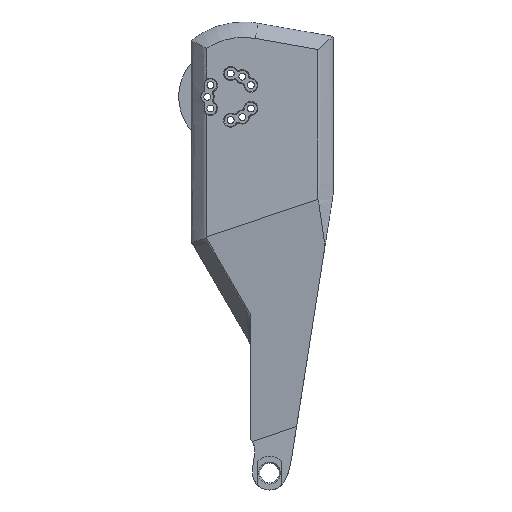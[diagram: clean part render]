
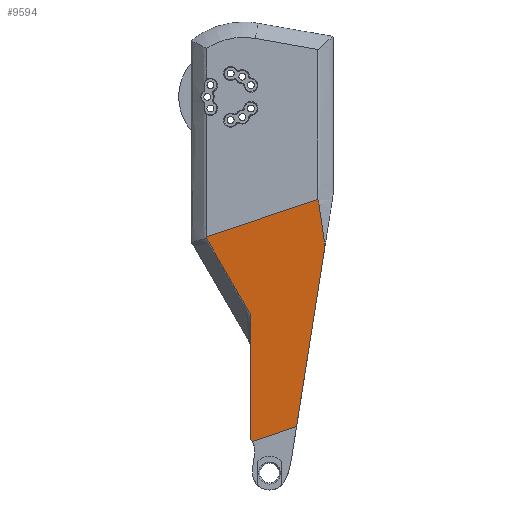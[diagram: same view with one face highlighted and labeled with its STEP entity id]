
A CAD part, left-side view. The second image highlights one B-rep face of the part: STEP entity #9594.
In plain terms, the highlighted planar face has unit normal (-0.993, -0.039, -0.116).
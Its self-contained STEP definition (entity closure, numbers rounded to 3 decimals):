
#476=CARTESIAN_POINT('',(74.067,35.793,-556.666));
#1974=CARTESIAN_POINT('',(78.413,-55.705,
-563.026));
#1975=CARTESIAN_POINT('',(78.292,-55.58,
-562.032));
#1976=CARTESIAN_POINT('',(78.06,-55.336,
-560.116));
#1977=CARTESIAN_POINT('',(77.738,-54.996,
-557.469));
#1978=CARTESIAN_POINT('',(77.441,-54.677,
-555.024));
#1979=CARTESIAN_POINT('',(77.166,-54.379,
-552.769));
#1980=CARTESIAN_POINT('',(76.913,-54.1,
-550.688));
#1981=CARTESIAN_POINT('',(76.679,-53.839,
-548.768));
#1982=CARTESIAN_POINT('',(76.463,-53.596,
-546.998));
#1983=CARTESIAN_POINT('',(76.264,-53.368,
-545.365));
#1984=CARTESIAN_POINT('',(76.08,-53.155,
-543.859));
#1985=CARTESIAN_POINT('',(75.911,-52.956,
-542.471));
#1986=CARTESIAN_POINT('',(75.754,-52.769,
-541.19));
#1987=CARTESIAN_POINT('',(75.61,-52.595,
-540.01));
#1988=CARTESIAN_POINT('',(75.477,-52.433,
-538.921));
#1989=CARTESIAN_POINT('',(75.354,-52.281,
-537.917));
#1990=CARTESIAN_POINT('',(75.241,-52.139,
-536.991));
#1991=CARTESIAN_POINT('',(75.136,-52.006,
-536.138));
#1992=CARTESIAN_POINT('',(75.039,-51.881,
-535.352));
#1993=CARTESIAN_POINT('',(74.951,-51.765,
-534.628));
#1994=CARTESIAN_POINT('',(74.869,-51.656,
-533.961));
#1995=CARTESIAN_POINT('',(74.793,-51.554,
-533.347));
#1996=CARTESIAN_POINT('',(74.723,-51.458,
-532.782));
#1997=CARTESIAN_POINT('',(74.659,-51.369,
-532.261));
#1998=CARTESIAN_POINT('',(74.6,-51.285,
-531.783));
#1999=CARTESIAN_POINT('',(74.546,-51.206,
-531.342));
#2000=CARTESIAN_POINT('',(74.496,-51.133,
-530.937));
#2001=CARTESIAN_POINT('',(74.45,-51.064,
-530.565));
#2002=CARTESIAN_POINT('',(74.407,-50.999,
-530.223));
#2003=CARTESIAN_POINT('',(74.368,-50.938,
-529.909));
#2004=CARTESIAN_POINT('',(74.333,-50.881,
-529.62));
#2005=CARTESIAN_POINT('',(74.3,-50.827,
-529.355));
#2006=CARTESIAN_POINT('',(74.269,-50.776,
-529.112));
#2007=CARTESIAN_POINT('',(74.241,-50.729,
-528.889));
#2008=CARTESIAN_POINT('',(74.216,-50.684,
-528.684));
#2009=CARTESIAN_POINT('',(74.192,-50.642,
-528.497));
#2010=CARTESIAN_POINT('',(74.171,-50.602,
-528.325));
#2011=CARTESIAN_POINT('',(74.151,-50.564,
-528.168));
#2012=CARTESIAN_POINT('',(74.133,-50.528,
-528.025));
#2013=CARTESIAN_POINT('',(74.116,-50.494,
-527.894));
#2014=CARTESIAN_POINT('',(74.101,-50.462,
-527.774));
#2015=CARTESIAN_POINT('',(74.087,-50.432,
-527.665));
#2016=CARTESIAN_POINT('',(74.074,-50.402,
-527.566));
#2017=CARTESIAN_POINT('',(74.063,-50.374,
-527.476));
#2018=CARTESIAN_POINT('',(74.052,-50.347,
-527.395));
#2019=CARTESIAN_POINT('',(74.043,-50.321,
-527.321));
#2020=CARTESIAN_POINT('',(74.034,-50.296,
-527.254));
#2021=CARTESIAN_POINT('',(74.026,-50.271,
-527.195));
#2022=CARTESIAN_POINT('',(74.019,-50.246,
-527.142));
#2023=CARTESIAN_POINT('',(74.012,-50.22,
-527.095));
#2024=CARTESIAN_POINT('',(74.007,-50.192,
-527.056));
#2025=CARTESIAN_POINT('',(74.002,-50.162,
-527.025));
#2026=CARTESIAN_POINT('',(74.,-50.134,
-527.017));
#2027=CARTESIAN_POINT('',(74.,-50.121,-527.022));
#2045=CARTESIAN_POINT('',(78.413,-55.705,
-563.026));
#2467=DIRECTION('',(0.116,0.,-0.993));
#2468=VECTOR('',#2467,95.408);
#2469=CARTESIAN_POINT('',(82.326,1.544,-615.99));
#2470=LINE('',#2469,#2468);
#2483=DIRECTION('',(-0.12,0.496,0.86));
#2484=VECTOR('',#2483,68.997);
#2485=CARTESIAN_POINT('',(82.326,1.544,-615.99));
#2486=LINE('',#2485,#2484);
#2487=DIRECTION('',(0.,-0.947,0.321));
#2488=VECTOR('',#2487,90.421);
#2489=CARTESIAN_POINT('',(74.,35.53,-556.002));
#2490=LINE('',#2489,#2488);
#2491=DIRECTION('',(0.108,0.154,-0.982));
#2492=VECTOR('',#2491,141.638);
#2493=CARTESIAN_POINT('',(78.413,-55.705,
-563.026));
#2494=LINE('',#2493,#2492);
#2495=CARTESIAN_POINT('',(93.75,0.385,-713.697));
#2496=CARTESIAN_POINT('',(93.721,0.516,
-713.489));
#2497=CARTESIAN_POINT('',(93.691,0.654,
-713.285));
#2498=CARTESIAN_POINT('',(93.662,0.797,
-713.085));
#2536=CARTESIAN_POINT('',(74.,35.53,-556.002));
#2537=CARTESIAN_POINT('',(74.,35.557,-556.011));
#2538=CARTESIAN_POINT('',(74.003,35.596,-556.051));
#2539=CARTESIAN_POINT('',(74.012,35.627,-556.139));
#2540=CARTESIAN_POINT('',(74.021,35.658,-556.222));
#2541=CARTESIAN_POINT('',(74.029,35.69,-556.308));
#2542=CARTESIAN_POINT('',(74.04,35.724,-556.41));
#2543=CARTESIAN_POINT('',(74.052,35.757,-556.527));
#2544=CARTESIAN_POINT('',(74.062,35.781,-556.618));
#2545=CARTESIAN_POINT('',(74.067,35.793,-556.666));
#4020=DIRECTION('',(0.,-0.947,0.321));
#4021=VECTOR('',#4020,36.118);
#4022=CARTESIAN_POINT('',(93.75,0.385,-713.697));
#4023=LINE('',#4022,#4021);
#4224=CARTESIAN_POINT('',(93.362,1.544,-710.758));
#4225=CARTESIAN_POINT('',(93.462,1.544,-711.614));
#4226=CARTESIAN_POINT('',(93.562,1.295,-712.389));
#4227=CARTESIAN_POINT('',(93.662,0.797,
-713.085));
#6256=VERTEX_POINT('',#476);
#6257=CARTESIAN_POINT('',(82.326,1.544,-615.99));
#6258=VERTEX_POINT('',#6257);
#6657=VERTEX_POINT('',#2045);
#6658=VERTEX_POINT('',#2027);
#6665=CARTESIAN_POINT('',(93.75,-33.828,-702.121));
#6666=VERTEX_POINT('',#6665);
#6777=CARTESIAN_POINT('',(93.75,0.385,-713.697));
#6778=VERTEX_POINT('',#6777);
#6792=VERTEX_POINT('',#2498);
#6793=CARTESIAN_POINT('',(93.362,1.544,-710.758));
#6794=VERTEX_POINT('',#6793);
#6795=VERTEX_POINT('',#2536);
#9573=CARTESIAN_POINT('',(82.167,-6.197,
-612.008));
#9574=DIRECTION('',(-0.993,-0.039,-0.116));
#9575=DIRECTION('',(0.039,-0.999,0.005));
#9576=AXIS2_PLACEMENT_3D('',#9573,#9574,#9575);
#9577=PLANE('',#9576);
#9578=ORIENTED_EDGE('',*,*,#9552,.F.);
#9579=ORIENTED_EDGE('',*,*,#7952,.T.);
#9581=ORIENTED_EDGE('',*,*,#9580,.F.);
#9583=ORIENTED_EDGE('',*,*,#9582,.T.);
#9584=ORIENTED_EDGE('',*,*,#9094,.F.);
#9585=ORIENTED_EDGE('',*,*,#9146,.T.);
#9587=ORIENTED_EDGE('',*,*,#9586,.F.);
#9589=ORIENTED_EDGE('',*,*,#9588,.T.);
#9591=ORIENTED_EDGE('',*,*,#9590,.F.);
#9592=EDGE_LOOP('',(#9578,#9579,#9581,#9583,#9584,#9585,#9587,#9589,#9591));
#9593=FACE_OUTER_BOUND('',#9592,.F.);
#9594=ADVANCED_FACE('',(#9593),#9577,.T.);
#2028=B_SPLINE_CURVE_WITH_KNOTS('',3,(#1974,#1975,#1976,#1977,#1978,#1979,#1980,
#1981,#1982,#1983,#1984,#1985,#1986,#1987,#1988,#1989,#1990,#1991,#1992,#1993,
#1994,#1995,#1996,#1997,#1998,#1999,#2000,#2001,#2002,#2003,#2004,#2005,#2006,
#2007,#2008,#2009,#2010,#2011,#2012,#2013,#2014,#2015,#2016,#2017,#2018,#2019,
#2020,#2021,#2022,#2023,#2024,#2025,#2026,#2027),.UNSPECIFIED.,.F.,.F.,(4,1,1,1,
1,1,1,1,1,1,1,1,1,1,1,1,1,1,1,1,1,1,1,1,1,1,1,1,1,1,1,1,1,1,1,1,1,1,1,1,1,1,1,1,
1,1,1,1,1,1,1,4),(0.,0.02,0.039,0.059,
0.078,0.098,0.118,0.137,
0.157,0.176,0.196,0.216,
0.235,0.255,0.275,0.294,
0.314,0.333,0.353,0.373,
0.392,0.412,0.431,0.451,
0.471,0.49,0.51,0.529,
0.549,0.569,0.588,0.608,
0.627,0.647,0.667,0.686,
0.706,0.725,0.745,0.765,
0.784,0.804,0.824,0.843,
0.863,0.882,0.902,0.922,
0.941,0.961,0.98,1.),.UNSPECIFIED.);
#2499=B_SPLINE_CURVE_WITH_KNOTS('',3,(#2495,#2496,#2497,#2498),.UNSPECIFIED.,
.F.,.F.,(4,4),(0.,1.),.UNSPECIFIED.);
#2546=B_SPLINE_CURVE_WITH_KNOTS('',3,(#2536,#2537,#2538,#2539,#2540,#2541,#2542,
#2543,#2544,#2545),.UNSPECIFIED.,.F.,.F.,(4,1,1,1,1,1,1,4),(0.,
0.143,0.286,0.429,0.571,
0.714,0.857,1.),.UNSPECIFIED.);
#4228=B_SPLINE_CURVE_WITH_KNOTS('',3,(#4224,#4225,#4226,#4227),.UNSPECIFIED.,
.F.,.F.,(4,4),(0.,1.),.UNSPECIFIED.);
#7952=EDGE_CURVE('',#6258,#6256,#2486,.T.);
#9094=EDGE_CURVE('',#6657,#6658,#2028,.T.);
#9146=EDGE_CURVE('',#6657,#6666,#2494,.T.);
#9552=EDGE_CURVE('',#6258,#6794,#2470,.T.);
#9580=EDGE_CURVE('',#6795,#6256,#2546,.T.);
#9582=EDGE_CURVE('',#6795,#6658,#2490,.T.);
#9586=EDGE_CURVE('',#6778,#6666,#4023,.T.);
#9588=EDGE_CURVE('',#6778,#6792,#2499,.T.);
#9590=EDGE_CURVE('',#6794,#6792,#4228,.T.);
